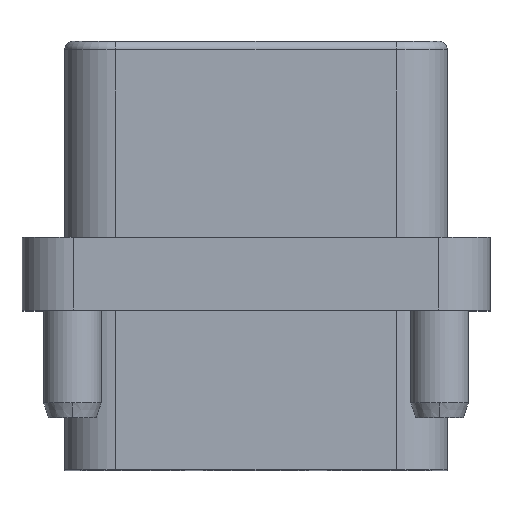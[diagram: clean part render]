
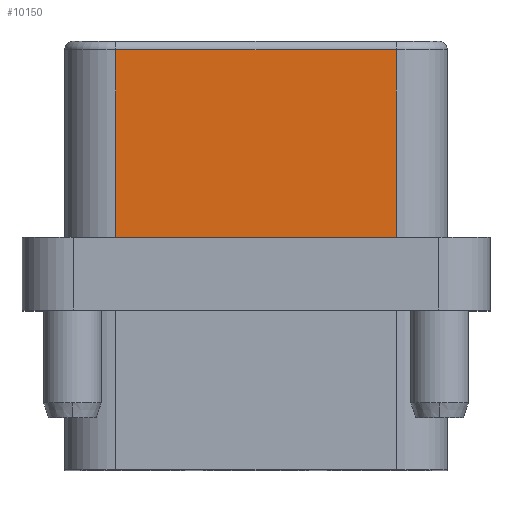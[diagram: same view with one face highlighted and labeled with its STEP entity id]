
A CAD part, top view. The second image highlights one B-rep face of the part: STEP entity #10150.
In plain terms, the highlighted planar face has unit normal (0, 0, 1).
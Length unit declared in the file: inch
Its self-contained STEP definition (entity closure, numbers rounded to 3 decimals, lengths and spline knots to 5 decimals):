
#727 = EDGE_LOOP ( 'NONE', ( #22443, #30050, #46975, #44699 ) ) ;
#1118 = CARTESIAN_POINT ( 'NONE',  ( -0.164, -0.01, 0.39 ) ) ;
#1126 = LINE ( 'NONE', #35845, #34297 ) ;
#4064 = PLANE ( 'NONE',  #14551 ) ;
#4459 = DIRECTION ( 'NONE',  ( -1., 0., 0. ) ) ;
#5981 = VERTEX_POINT ( 'NONE', #39090 ) ;
#6687 = EDGE_CURVE ( 'NONE', #41184, #5981, #38631, .T. ) ;
#7969 = DIRECTION ( 'NONE',  ( -1., 0., 0. ) ) ;
#10150 = ADVANCED_FACE ( 'NONE', ( #15676 ), #4064, .T. ) ;
#10296 = CARTESIAN_POINT ( 'NONE',  ( 0.164, -0.5015, 0.39 ) ) ;
#10426 = EDGE_CURVE ( 'NONE', #41184, #38636, #25521, .T. ) ;
#11214 = CARTESIAN_POINT ( 'NONE',  ( -0.164, -0.23, 0.39 ) ) ;
#11311 = DIRECTION ( 'NONE',  ( 0., 0., 1. ) ) ;
#11464 = DIRECTION ( 'NONE',  ( 1., 0., 0. ) ) ;
#14551 = AXIS2_PLACEMENT_3D ( 'NONE', #15368, #11311, #11464 ) ;
#15368 = CARTESIAN_POINT ( 'NONE',  ( -0.164, -0.5015, 0.39 ) ) ;
#15676 = FACE_OUTER_BOUND ( 'NONE', #727, .T. ) ;
#18822 = VECTOR ( 'NONE', #7969, 39.37008 ) ;
#20577 = EDGE_CURVE ( 'NONE', #5981, #28151, #1126, .T. ) ;
#22443 = ORIENTED_EDGE ( 'NONE', *, *, #10426, .T. ) ;
#23659 = CARTESIAN_POINT ( 'NONE',  ( 0.164, -0.01, 0.39 ) ) ;
#23758 = VECTOR ( 'NONE', #32895, 39.37008 ) ;
#25521 = LINE ( 'NONE', #10296, #23758 ) ;
#26676 = CARTESIAN_POINT ( 'NONE',  ( -0.164, -0.01, 0.39 ) ) ;
#28151 = VERTEX_POINT ( 'NONE', #1118 ) ;
#30050 = ORIENTED_EDGE ( 'NONE', *, *, #41369, .T. ) ;
#32084 = CARTESIAN_POINT ( 'NONE',  ( 0.164, -0.23, 0.39 ) ) ;
#32895 = DIRECTION ( 'NONE',  ( 0., 1., 0. ) ) ;
#34297 = VECTOR ( 'NONE', #36823, 39.37008 ) ;
#35845 = CARTESIAN_POINT ( 'NONE',  ( -0.164, -0.5015, 0.39 ) ) ;
#36823 = DIRECTION ( 'NONE',  ( 0., 1., 0. ) ) ;
#37841 = LINE ( 'NONE', #26676, #38433 ) ;
#38433 = VECTOR ( 'NONE', #4459, 39.37008 ) ;
#38631 = LINE ( 'NONE', #11214, #18822 ) ;
#38636 = VERTEX_POINT ( 'NONE', #23659 ) ;
#39090 = CARTESIAN_POINT ( 'NONE',  ( -0.164, -0.23, 0.39 ) ) ;
#41184 = VERTEX_POINT ( 'NONE', #32084 ) ;
#41369 = EDGE_CURVE ( 'NONE', #38636, #28151, #37841, .T. ) ;
#44699 = ORIENTED_EDGE ( 'NONE', *, *, #6687, .F. ) ;
#46975 = ORIENTED_EDGE ( 'NONE', *, *, #20577, .F. ) ;
